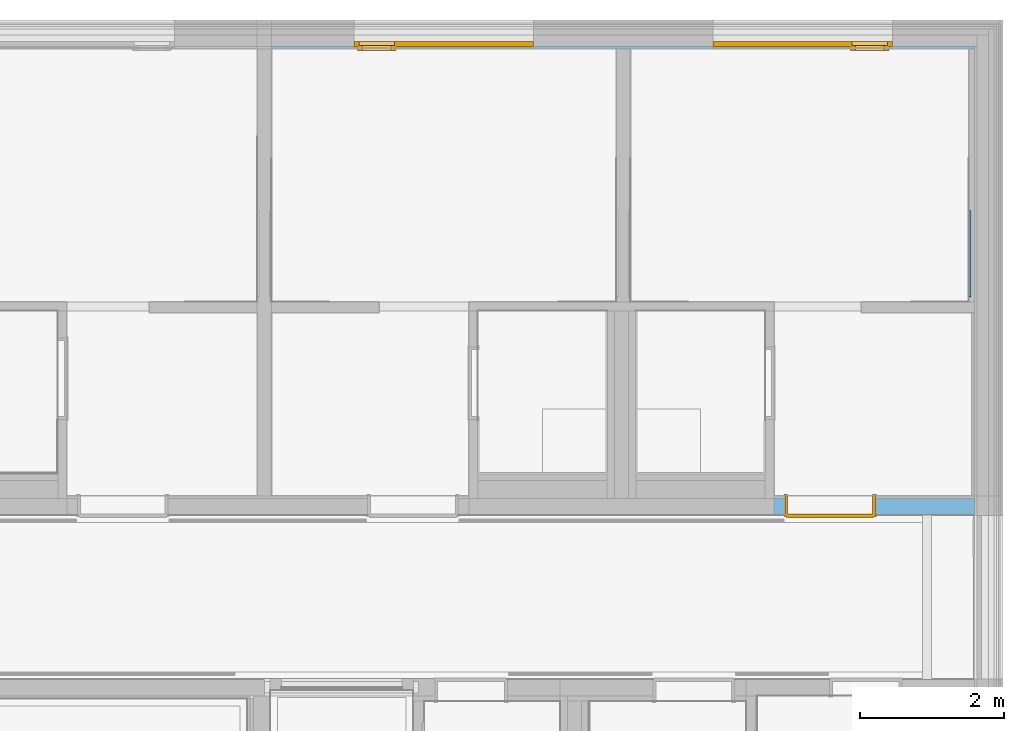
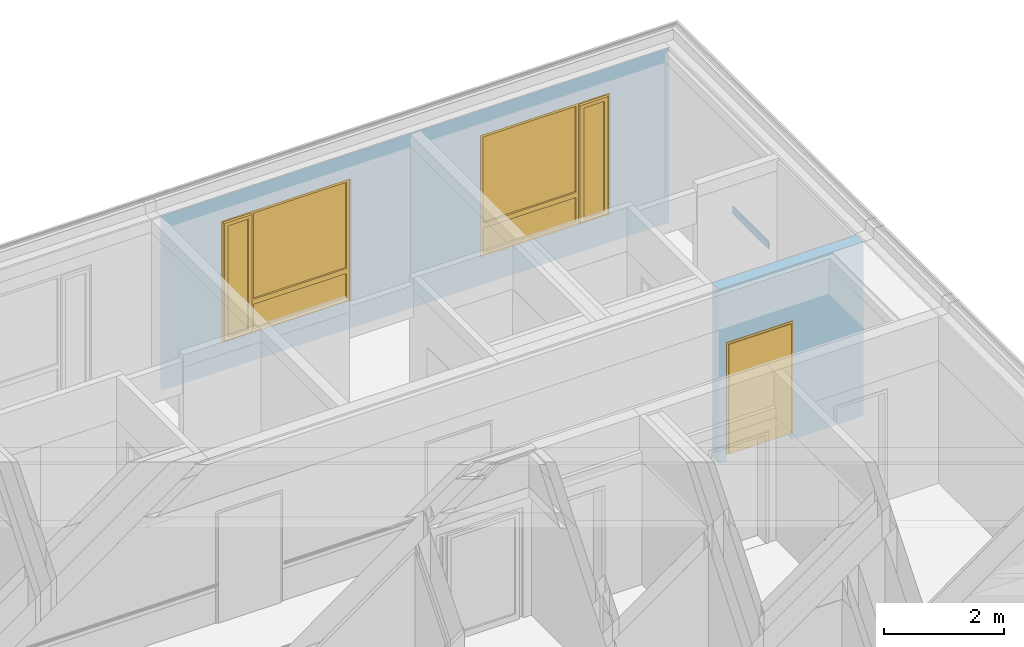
# One storey, part 146 of 222: 2 windows, 1 door, 1 wall, 3 openings, plus 2 elements that do not belong to this part.
"""IFC4 building model written with IfcOpenShell, lengths in metres."""

from ifc_helpers import new_model, entity, si_unit, converted_unit, derived_unit, frame, frame_2d, origin, origin_with_axes, place, context, subcontext, project, spatial, polyline, rectangle, outline, extrude, closed_shell, open_shell, faceted_brep, surface_model, source, transform, mapped, material, type_object, element, fill, save


model = new_model("IFC4")

# Units and contexts
model_context = context("Model", 3, precision=1e-05, world=origin())
body_context = subcontext(model_context, "Body", "Model", "MODEL_VIEW")
ifc_project = project(units=[si_unit("LENGTHUNIT", "METRE"), si_unit("AREAUNIT", "SQUARE_METRE"), si_unit("VOLUMEUNIT", "CUBIC_METRE"), si_unit("MASSUNIT", "GRAM", prefix="KILO"), converted_unit("PLANEANGLEUNIT", "DEGREE", entity("IfcPlaneAngleMeasure", 0.0174532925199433), si_unit("PLANEANGLEUNIT", "RADIAN"), dimensions=[0, 0, 0, 0, 0, 0, 0]), derived_unit("THERMALTRANSMITTANCEUNIT", [(si_unit("POWERUNIT", "WATT"), 1), (si_unit("THERMODYNAMICTEMPERATUREUNIT", "KELVIN"), -1), (si_unit("LENGTHUNIT", "METRE"), -2)]), derived_unit("VOLUMETRICFLOWRATEUNIT", [(si_unit("LENGTHUNIT", "METRE"), 3), (converted_unit("TIMEUNIT", "hour", entity("IfcTimeMeasure", 3600.0), si_unit("TIMEUNIT", "SECOND"), dimensions=[0, 0, 1, 0, 0, 0, 0]), -1), (si_unit("LENGTHUNIT", "METRE"), -1)])], contexts=[model_context])

# Site, building, storey
site_placement = place(None, origin())
site = spatial("IfcSite", under=ifc_project, at=site_placement, Name="Psychiatrie Neubau Wunstorf", CompositionType="ELEMENT")
building_placement = place(site_placement, origin())
building = spatial("IfcBuilding", under=site, at=building_placement, Name="Neubau H2 Stationsgebäude", CompositionType="ELEMENT")
storey_placement = place(building_placement, frame((0.0, 0.0, 3.6)))
storey = spatial("IfcBuildingStorey", under=building, at=storey_placement, Name="H2 Ebene +1", CompositionType="ELEMENT", Elevation=3.6)

# Wall, openings, windows
ifc_material_1 = material(Name="WA-LB")
wall_1_placement = place(storey_placement, frame((96.1, 31.614, 0.0)))
wall_1 = element("IfcWall", 1, at=wall_1_placement, inside=storey, material=ifc_material_1, context=body_context, shape_type="SweptSolid", body=[
    extrude(rectangle(XDim=9.789, YDim=0.036, at=frame_2d((4.8945, 0.018), x_axis=(1.0, 0.0))), origin_with_axes(), (0.0, 0.0, 1.0), 3.55),
])
opening_1_placement = place(wall_1_placement, frame((6.15, 0.0, 0.55), z_axis=(0.0, 1.0, 0.0), x_axis=(0.0, 0.0, 1.0)))
opening_1 = element("IfcOpeningElement", 2, at=opening_1_placement, cuts=wall_1, Name="Fensteröffnung", ObjectType="Opening", context=body_context, shape_type="SweptSolid", body=[
    extrude(outline(polyline([(2.5, 2.5), (2.5, 0.0), (0.0, 0.0), (0.0, 2.5), (2.5, 2.5)])), origin_with_axes(), (0.0, 0.0, 1.0), 0.036),
])
opening_2_placement = place(wall_1_placement, frame((1.15, 0.0, 0.55), z_axis=(0.0, 1.0, 0.0), x_axis=(0.0, 0.0, 1.0)))
opening_2 = element("IfcOpeningElement", 3, at=opening_2_placement, cuts=wall_1, Name="Fensteröffnung", ObjectType="Opening", context=body_context, shape_type="SweptSolid", body=[
    extrude(outline(polyline([(2.5, 2.5), (2.5, 0.0), (0.0, 0.0), (0.0, 2.5), (2.5, 2.5)])), origin_with_axes(), (0.0, 0.0, 1.0), 0.036),
])
shared_shape_1 = source(origin_with_axes(), body_context, "Body", "SurfaceModel", [
    surface_model("IfcShellBasedSurfaceModel", [(2.5, 0.0, 2.5), (2.5, 0.0, 0.0), (2.43, 0.0, 0.0), (2.43, 0.0, 2.5), (2.5, 0.0699999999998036, 0.0), (2.5, 0.0699999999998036, 2.5), (2.43, 0.0699999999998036, 2.5), (2.43, 0.0699999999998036, 0.0)], [closed_shell([[[0, 1, 2, 3]], [[4, 5, 6, 7]], [[1, 0, 5, 4]], [[2, 1, 4, 7]], [[3, 2, 7, 6]], [[0, 3, 6, 5]]], orient=[[False], [False], [False], [False], [False], [False]])]),
    surface_model("IfcShellBasedSurfaceModel", [(0.07, 0.0, 2.5), (0.07, 0.0, 0.0), (0.0, 0.0, 0.0), (0.0, 0.0, 2.5), (0.07, 0.0699999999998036, 0.0), (0.07, 0.0699999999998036, 2.5), (0.0, 0.0699999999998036, 2.5), (0.0, 0.0699999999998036, 0.0)], [closed_shell([[[0, 1, 2, 3]], [[4, 5, 6, 7]], [[1, 0, 5, 4]], [[2, 1, 4, 7]], [[3, 2, 7, 6]], [[0, 3, 6, 5]]], orient=[[False], [False], [False], [False], [False], [False]])]),
    surface_model("IfcShellBasedSurfaceModel", [(2.43, 0.0, 0.07), (2.43, 0.0, 0.0), (0.07, 0.0, 0.0), (0.07, 0.0, 0.07), (2.43, 0.0699999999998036, 0.0), (2.43, 0.0699999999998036, 0.07), (0.07, 0.0699999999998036, 0.07), (0.07, 0.0699999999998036, 0.0)], [closed_shell([[[0, 1, 2, 3]], [[4, 5, 6, 7]], [[1, 0, 5, 4]], [[2, 1, 4, 7]], [[3, 2, 7, 6]], [[0, 3, 6, 5]]], orient=[[False], [False], [False], [False], [False], [False]])]),
    surface_model("IfcShellBasedSurfaceModel", [(2.43, 0.0, 2.5), (2.43, 0.0, 2.43), (0.07, 0.0, 2.43), (0.07, 0.0, 2.5), (2.43, 0.0699999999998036, 2.43), (2.43, 0.0699999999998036, 2.5), (0.07, 0.0699999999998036, 2.5), (0.07, 0.0699999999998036, 2.43)], [closed_shell([[[0, 1, 2, 3]], [[4, 5, 6, 7]], [[1, 0, 5, 4]], [[2, 1, 4, 7]], [[3, 2, 7, 6]], [[0, 3, 6, 5]]], orient=[[False], [False], [False], [False], [False], [False]])]),
    surface_model("IfcShellBasedSurfaceModel", [(1.934285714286, 0.0, 2.43), (1.934285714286, 0.0, 0.07), (1.864285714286, 0.0, 0.07), (1.864285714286, 0.0, 2.43), (1.934285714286, 0.0699999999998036, 0.07), (1.934285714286, 0.0699999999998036, 2.43), (1.864285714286, 0.0699999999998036, 2.43), (1.864285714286, 0.0699999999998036, 0.07)], [closed_shell([[[0, 1, 2, 3]], [[4, 5, 6, 7]], [[1, 0, 5, 4]], [[2, 1, 4, 7]], [[3, 2, 7, 6]], [[0, 3, 6, 5]]], orient=[[False], [False], [False], [False], [False], [False]])]),
    surface_model("IfcShellBasedSurfaceModel", [(2.45, -0.05, 2.45), (2.45, -0.05, 0.05), (2.38, -0.05, 0.05), (2.38, -0.05, 2.45), (2.45, 0.0199999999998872, 0.05), (2.45, 0.0199999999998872, 2.45), (2.38, 0.0199999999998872, 2.45), (2.38, 0.0199999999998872, 0.05)], [closed_shell([[[0, 1, 2, 3]], [[4, 5, 6, 7]], [[1, 0, 5, 4]], [[2, 1, 4, 7]], [[3, 2, 7, 6]], [[0, 3, 6, 5]]], orient=[[False], [False], [False], [False], [False], [False]])]),
    surface_model("IfcShellBasedSurfaceModel", [(1.984285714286, -0.05, 2.45), (1.984285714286, -0.05, 0.05), (1.914285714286, -0.05, 0.05), (1.914285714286, -0.05, 2.45), (1.984285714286, 0.0199999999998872, 0.05), (1.984285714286, 0.0199999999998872, 2.45), (1.914285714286, 0.0199999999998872, 2.45), (1.914285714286, 0.0199999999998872, 0.05)], [closed_shell([[[0, 1, 2, 3]], [[4, 5, 6, 7]], [[1, 0, 5, 4]], [[2, 1, 4, 7]], [[3, 2, 7, 6]], [[0, 3, 6, 5]]], orient=[[False], [False], [False], [False], [False], [False]])]),
    surface_model("IfcShellBasedSurfaceModel", [(2.38, -0.05, 0.12), (2.38, -0.05, 0.05), (1.984285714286, -0.05, 0.05), (1.984285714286, -0.05, 0.12), (2.38, 0.0199999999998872, 0.05), (2.38, 0.0199999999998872, 0.12), (1.984285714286, 0.0199999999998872, 0.12), (1.984285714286, 0.0199999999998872, 0.05)], [closed_shell([[[0, 1, 2, 3]], [[4, 5, 6, 7]], [[1, 0, 5, 4]], [[2, 1, 4, 7]], [[3, 2, 7, 6]], [[0, 3, 6, 5]]], orient=[[False], [False], [False], [False], [False], [False]])]),
    surface_model("IfcShellBasedSurfaceModel", [(2.38, -0.05, 2.45), (2.38, -0.05, 2.38), (1.984285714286, -0.05, 2.38), (1.984285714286, -0.05, 2.45), (2.38, 0.0199999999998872, 2.38), (2.38, 0.0199999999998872, 2.45), (1.984285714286, 0.0199999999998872, 2.45), (1.984285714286, 0.0199999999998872, 2.38)], [closed_shell([[[0, 1, 2, 3]], [[4, 5, 6, 7]], [[1, 0, 5, 4]], [[2, 1, 4, 7]], [[3, 2, 7, 6]], [[0, 3, 6, 5]]], orient=[[False], [False], [False], [False], [False], [False]])]),
    surface_model("IfcShellBasedSurfaceModel", [(1.864285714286, 0.0, 0.67), (1.864285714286, 0.0, 0.57), (0.07, 0.0, 0.57), (0.07, 0.0, 0.67), (1.864285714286, 0.0699999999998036, 0.57), (1.864285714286, 0.0699999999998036, 0.67), (0.07, 0.0699999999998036, 0.67), (0.07, 0.0699999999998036, 0.57)], [closed_shell([[[0, 1, 2, 3]], [[4, 5, 6, 7]], [[1, 0, 5, 4]], [[2, 1, 4, 7]], [[3, 2, 7, 6]], [[0, 3, 6, 5]]], orient=[[False], [False], [False], [False], [False], [False]])]),
    surface_model("IfcShellBasedSurfaceModel", [(2.38, -0.0150000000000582, 0.12), (1.984285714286, -0.0150000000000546, 0.12), (1.984285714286, -0.0150000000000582, 2.38), (2.38, -0.0150000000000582, 2.38)], [open_shell([[[0, 1, 2, 3]]], orient=[[False]])]),
    surface_model("IfcShellBasedSurfaceModel", [(1.864285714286, 0.0349999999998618, 0.07), (0.07, 0.0349999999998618, 0.07), (0.07, 0.0349999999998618, 0.57), (1.864285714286, 0.0349999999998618, 0.57)], [open_shell([[[0, 1, 2, 3]]], orient=[[False]])]),
    surface_model("IfcShellBasedSurfaceModel", [(1.864285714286, 0.0349999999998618, 0.67), (0.07, 0.0349999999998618, 0.67), (0.07, 0.0349999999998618, 2.43), (1.864285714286, 0.0349999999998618, 2.43)], [open_shell([[[0, 1, 2, 3]]], orient=[[False]])]),
])
window_1_placement = place(opening_1_placement, frame((0.0, 0.0, 0.03), z_axis=(1.0, 0.0, 0.0), x_axis=(0.0, 1.0, 0.0)))
window_1 = element("IfcWindow", 4, at=window_1_placement, inside=storey, Name="Fenster", OverallHeight=2.5, OverallWidth=2.5, PartitioningType="USERDEFINED", PredefinedType="WINDOW", context=body_context, shape_type="MappedRepresentation", body=[
    mapped(shared_shape_1, transform((0.0, 0.0, 0.0), x_axis=(1.0, 0.0, 0.0), y_axis=(0.0, 1.0, 0.0), z_axis=(0.0, 0.0, 1.0), scale=1.0)),
])
fill(opening_1, window_1)
shared_shape_2 = source(origin_with_axes(), body_context, "Body", "SurfaceModel", [
    surface_model("IfcShellBasedSurfaceModel", [(0.0, 0.0, 2.5), (0.07, 0.0, 2.5), (0.07, 0.0, 0.0), (0.0, 0.0, 0.0), (0.0, 0.0699999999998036, 0.0), (0.07, 0.0699999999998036, 0.0), (0.07, 0.0699999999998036, 2.5), (0.0, 0.0699999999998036, 2.5)], [closed_shell([[[0, 1, 2, 3]], [[4, 5, 6, 7]], [[3, 4, 7, 0]], [[2, 5, 4, 3]], [[1, 6, 5, 2]], [[0, 7, 6, 1]]], orient=[[False], [False], [False], [False], [False], [False]])]),
    surface_model("IfcShellBasedSurfaceModel", [(2.43, 0.0, 2.5), (2.5, 0.0, 2.5), (2.5, 0.0, 0.0), (2.43, 0.0, 0.0), (2.43, 0.0699999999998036, 0.0), (2.5, 0.0699999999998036, 0.0), (2.5, 0.0699999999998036, 2.5), (2.43, 0.0699999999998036, 2.5)], [closed_shell([[[0, 1, 2, 3]], [[4, 5, 6, 7]], [[3, 4, 7, 0]], [[2, 5, 4, 3]], [[1, 6, 5, 2]], [[0, 7, 6, 1]]], orient=[[False], [False], [False], [False], [False], [False]])]),
    surface_model("IfcShellBasedSurfaceModel", [(0.07, 0.0, 0.07), (2.43, 0.0, 0.07), (2.43, 0.0, 0.0), (0.07, 0.0, 0.0), (0.07, 0.0699999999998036, 0.0), (2.43, 0.0699999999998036, 0.0), (2.43, 0.0699999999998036, 0.07), (0.07, 0.0699999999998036, 0.07)], [closed_shell([[[0, 1, 2, 3]], [[4, 5, 6, 7]], [[3, 4, 7, 0]], [[2, 5, 4, 3]], [[1, 6, 5, 2]], [[0, 7, 6, 1]]], orient=[[False], [False], [False], [False], [False], [False]])]),
    surface_model("IfcShellBasedSurfaceModel", [(0.07, 0.0, 2.5), (2.43, 0.0, 2.5), (2.43, 0.0, 2.43), (0.07, 0.0, 2.43), (0.07, 0.0699999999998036, 2.43), (2.43, 0.0699999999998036, 2.43), (2.43, 0.0699999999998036, 2.5), (0.07, 0.0699999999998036, 2.5)], [closed_shell([[[0, 1, 2, 3]], [[4, 5, 6, 7]], [[3, 4, 7, 0]], [[2, 5, 4, 3]], [[1, 6, 5, 2]], [[0, 7, 6, 1]]], orient=[[False], [False], [False], [False], [False], [False]])]),
    surface_model("IfcShellBasedSurfaceModel", [(0.565714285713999, 0.0, 2.43), (0.635714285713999, 0.0, 2.43), (0.635714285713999, 0.0, 0.07), (0.565714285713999, 0.0, 0.07), (0.565714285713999, 0.0699999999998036, 0.07), (0.635714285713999, 0.0699999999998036, 0.07), (0.635714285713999, 0.0699999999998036, 2.43), (0.565714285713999, 0.0699999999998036, 2.43)], [closed_shell([[[0, 1, 2, 3]], [[4, 5, 6, 7]], [[3, 4, 7, 0]], [[2, 5, 4, 3]], [[1, 6, 5, 2]], [[0, 7, 6, 1]]], orient=[[False], [False], [False], [False], [False], [False]])]),
    surface_model("IfcShellBasedSurfaceModel", [(0.05, -0.05, 2.45), (0.12, -0.05, 2.45), (0.12, -0.05, 0.05), (0.05, -0.05, 0.05), (0.05, 0.0199999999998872, 0.05), (0.12, 0.0199999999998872, 0.05), (0.12, 0.0199999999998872, 2.45), (0.05, 0.0199999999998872, 2.45)], [closed_shell([[[0, 1, 2, 3]], [[4, 5, 6, 7]], [[3, 4, 7, 0]], [[2, 5, 4, 3]], [[1, 6, 5, 2]], [[0, 7, 6, 1]]], orient=[[False], [False], [False], [False], [False], [False]])]),
    surface_model("IfcShellBasedSurfaceModel", [(0.515714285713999, -0.05, 2.45), (0.585714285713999, -0.05, 2.45), (0.585714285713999, -0.05, 0.05), (0.515714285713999, -0.05, 0.05), (0.515714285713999, 0.0199999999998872, 0.05), (0.585714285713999, 0.0199999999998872, 0.05), (0.585714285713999, 0.0199999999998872, 2.45), (0.515714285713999, 0.0199999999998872, 2.45)], [closed_shell([[[0, 1, 2, 3]], [[4, 5, 6, 7]], [[3, 4, 7, 0]], [[2, 5, 4, 3]], [[1, 6, 5, 2]], [[0, 7, 6, 1]]], orient=[[False], [False], [False], [False], [False], [False]])]),
    surface_model("IfcShellBasedSurfaceModel", [(0.12, -0.05, 0.12), (0.515714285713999, -0.05, 0.12), (0.515714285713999, -0.05, 0.05), (0.12, -0.05, 0.05), (0.12, 0.0199999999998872, 0.05), (0.515714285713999, 0.0199999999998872, 0.05), (0.515714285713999, 0.0199999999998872, 0.12), (0.12, 0.0199999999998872, 0.12)], [closed_shell([[[0, 1, 2, 3]], [[4, 5, 6, 7]], [[3, 4, 7, 0]], [[2, 5, 4, 3]], [[1, 6, 5, 2]], [[0, 7, 6, 1]]], orient=[[False], [False], [False], [False], [False], [False]])]),
    surface_model("IfcShellBasedSurfaceModel", [(0.12, -0.05, 2.45), (0.515714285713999, -0.05, 2.45), (0.515714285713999, -0.05, 2.38), (0.12, -0.05, 2.38), (0.12, 0.0199999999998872, 2.38), (0.515714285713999, 0.0199999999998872, 2.38), (0.515714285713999, 0.0199999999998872, 2.45), (0.12, 0.0199999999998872, 2.45)], [closed_shell([[[0, 1, 2, 3]], [[4, 5, 6, 7]], [[3, 4, 7, 0]], [[2, 5, 4, 3]], [[1, 6, 5, 2]], [[0, 7, 6, 1]]], orient=[[False], [False], [False], [False], [False], [False]])]),
    surface_model("IfcShellBasedSurfaceModel", [(0.635714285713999, 0.0, 0.67), (2.43, 0.0, 0.67), (2.43, 0.0, 0.57), (0.635714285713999, 0.0, 0.57), (0.635714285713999, 0.0699999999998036, 0.57), (2.43, 0.0699999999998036, 0.57), (2.43, 0.0699999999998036, 0.67), (0.635714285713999, 0.0699999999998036, 0.67)], [closed_shell([[[0, 1, 2, 3]], [[4, 5, 6, 7]], [[3, 4, 7, 0]], [[2, 5, 4, 3]], [[1, 6, 5, 2]], [[0, 7, 6, 1]]], orient=[[False], [False], [False], [False], [False], [False]])]),
    surface_model("IfcShellBasedSurfaceModel", [(0.12, -0.0150000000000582, 0.12), (0.12, -0.0150000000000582, 2.38), (0.515714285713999, -0.0150000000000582, 2.38), (0.515714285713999, -0.0150000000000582, 0.12)], [open_shell([[[0, 1, 2, 3]]], orient=[[False]])]),
    surface_model("IfcShellBasedSurfaceModel", [(0.635714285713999, 0.0349999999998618, 0.07), (0.635714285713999, 0.0349999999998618, 0.57), (2.43, 0.0349999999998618, 0.57), (2.43, 0.0349999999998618, 0.07)], [open_shell([[[0, 1, 2, 3]]], orient=[[False]])]),
    surface_model("IfcShellBasedSurfaceModel", [(0.635714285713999, 0.0349999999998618, 0.67), (0.635714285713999, 0.0349999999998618, 2.43), (2.43, 0.0349999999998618, 2.43), (2.43, 0.0349999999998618, 0.67)], [open_shell([[[0, 1, 2, 3]]], orient=[[False]])]),
])
window_2_placement = place(opening_2_placement, frame((0.0, 0.0, 0.03), z_axis=(1.0, 0.0, 0.0), x_axis=(0.0, 1.0, 0.0)))
window_2 = element("IfcWindow", 5, at=window_2_placement, inside=storey, Name="Fenster", OverallHeight=2.5, OverallWidth=2.5, PartitioningType="USERDEFINED", PredefinedType="WINDOW", context=body_context, shape_type="MappedRepresentation", body=[
    mapped(shared_shape_2, transform((0.0, 0.0, 0.0), x_axis=(1.0, 0.0, 0.0), y_axis=(0.0, 1.0, 0.0), z_axis=(0.0, 0.0, 1.0), scale=1.0)),
])
fill(opening_2, window_2)

# Wall, opening, door
ifc_material_2 = material(Name="WI-HW 60")
wall_2_placement = place(storey_placement, frame((103.1, 25.1175, 0.0)))
wall_2 = element("IfcWall", 6, at=wall_2_placement, inside=storey, material=ifc_material_2, context=body_context, shape_type="SweptSolid", body=[
    extrude(rectangle(XDim=2.789, YDim=0.232, at=frame_2d((1.3945, 0.116), x_axis=(1.0, 0.0))), origin_with_axes(), (0.0, 0.0, 1.0), 3.55),
])
opening_3_placement = place(wall_2_placement, frame((0.15, 0.0, 0.0), z_axis=(0.0, 1.0, 0.0), x_axis=(0.0, 0.0, 1.0)))
opening_3 = element("IfcOpeningElement", 7, at=opening_3_placement, cuts=wall_2, Name="Türöffnung", ObjectType="Opening", context=body_context, shape_type="SweptSolid", body=[
    extrude(outline(polyline([(2.41, 1.26), (2.41, 0.0), (0.0, 0.0), (0.0, 1.26), (2.41, 1.26)])), origin_with_axes(), (0.0, 0.0, 1.0), 0.232),
])
ifc_material_3 = material(Name="TI-2F-UZ-D")
door_type = type_object("IfcDoorType", Name="SMT", OperationType="DOUBLE_DOOR_SINGLE_SWING", ParameterTakesPrecedence=False, PredefinedType="DOOR")
shared_shape_3 = source(origin_with_axes(), body_context, "Body", "Brep", [
    faceted_brep([(0.0, -0.0150000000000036, 2.41), (0.04, -0.0150000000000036, 2.41), (0.04, -0.0150000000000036, 0.15), (0.0, -0.0150000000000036, 0.15), (0.0, 0.286999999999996, 0.15), (0.04, 0.286999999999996, 0.15), (0.04, 0.286999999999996, 2.41), (0.0, 0.286999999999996, 2.41)], [[[0, 1, 2, 3]], [[4, 5, 6, 7]], [[3, 4, 7, 0]], [[2, 5, 4, 3]], [[1, 6, 5, 2]], [[0, 7, 6, 1]]], orient=[[False], [False], [False], [False], [False], [False]]),
    faceted_brep([(0.0, -0.0150000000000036, 2.425), (0.0, -0.0150000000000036, 0.15), (-0.015, -0.0150000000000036, 0.15), (-0.015, -0.0150000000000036, 2.425), (0.0, 0.0, 0.15), (0.0, 0.0, 2.425), (-0.015, 0.0, 2.425), (-0.015, 0.0, 0.15)], [[[0, 1, 2, 3]], [[4, 5, 6, 7]], [[1, 0, 5, 4]], [[2, 1, 4, 7]], [[3, 2, 7, 6]], [[0, 3, 6, 5]]], orient=[[False], [False], [False], [False], [False], [False]]),
    faceted_brep([(0.0, 0.271999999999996, 2.425), (0.0, 0.271999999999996, 0.15), (-0.015, 0.271999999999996, 0.15), (-0.015, 0.271999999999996, 2.425), (0.0, 0.286999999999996, 0.15), (0.0, 0.286999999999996, 2.425), (-0.015, 0.286999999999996, 2.425), (-0.015, 0.286999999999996, 0.15)], [[[0, 1, 2, 3]], [[4, 5, 6, 7]], [[1, 0, 5, 4]], [[2, 1, 4, 7]], [[3, 2, 7, 6]], [[0, 3, 6, 5]]], orient=[[False], [False], [False], [False], [False], [False]]),
    faceted_brep([(1.22, -0.0150000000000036, 2.41), (1.26, -0.0150000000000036, 2.41), (1.26, -0.0150000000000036, 0.15), (1.22, -0.0150000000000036, 0.15), (1.22, 0.286999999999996, 0.15), (1.26, 0.286999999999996, 0.15), (1.26, 0.286999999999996, 2.41), (1.22, 0.286999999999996, 2.41)], [[[0, 1, 2, 3]], [[4, 5, 6, 7]], [[3, 4, 7, 0]], [[2, 5, 4, 3]], [[1, 6, 5, 2]], [[0, 7, 6, 1]]], orient=[[False], [False], [False], [False], [False], [False]]),
    faceted_brep([(1.26, -0.0150000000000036, 2.425), (1.275, -0.0150000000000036, 2.425), (1.275, -0.0150000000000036, 0.15), (1.26, -0.0150000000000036, 0.15), (1.26, 0.0, 0.15), (1.275, 0.0, 0.15), (1.275, 0.0, 2.425), (1.26, 0.0, 2.425)], [[[0, 1, 2, 3]], [[4, 5, 6, 7]], [[3, 4, 7, 0]], [[2, 5, 4, 3]], [[1, 6, 5, 2]], [[0, 7, 6, 1]]], orient=[[False], [False], [False], [False], [False], [False]]),
    faceted_brep([(1.26, 0.271999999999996, 2.425), (1.275, 0.271999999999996, 2.425), (1.275, 0.271999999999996, 0.15), (1.26, 0.271999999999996, 0.15), (1.26, 0.286999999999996, 0.15), (1.275, 0.286999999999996, 0.15), (1.275, 0.286999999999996, 2.425), (1.26, 0.286999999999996, 2.425)], [[[0, 1, 2, 3]], [[4, 5, 6, 7]], [[3, 4, 7, 0]], [[2, 5, 4, 3]], [[1, 6, 5, 2]], [[0, 7, 6, 1]]], orient=[[False], [False], [False], [False], [False], [False]]),
    faceted_brep([(0.04, -0.0150000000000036, 2.41), (1.22, -0.0150000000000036, 2.41), (1.22, -0.0150000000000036, 2.37), (0.04, -0.0150000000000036, 2.37), (0.04, 0.286999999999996, 2.37), (1.22, 0.286999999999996, 2.37), (1.22, 0.286999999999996, 2.41), (0.04, 0.286999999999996, 2.41)], [[[0, 1, 2, 3]], [[4, 5, 6, 7]], [[3, 4, 7, 0]], [[2, 5, 4, 3]], [[1, 6, 5, 2]], [[0, 7, 6, 1]]], orient=[[False], [False], [False], [False], [False], [False]]),
    faceted_brep([(0.0, -0.0150000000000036, 2.425), (1.26, -0.0150000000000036, 2.425), (1.26, -0.0150000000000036, 2.41), (0.0, -0.0150000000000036, 2.41), (0.0, 0.0, 2.41), (1.26, 0.0, 2.41), (1.26, 0.0, 2.425), (0.0, 0.0, 2.425)], [[[0, 1, 2, 3]], [[4, 5, 6, 7]], [[3, 4, 7, 0]], [[2, 5, 4, 3]], [[1, 6, 5, 2]], [[0, 7, 6, 1]]], orient=[[False], [False], [False], [False], [False], [False]]),
    faceted_brep([(0.0, 0.271999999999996, 2.425), (1.26, 0.271999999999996, 2.425), (1.26, 0.271999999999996, 2.41), (0.0, 0.271999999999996, 2.41), (0.0, 0.286999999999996, 2.41), (1.26, 0.286999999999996, 2.41), (1.26, 0.286999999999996, 2.425), (0.0, 0.286999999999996, 2.425)], [[[0, 1, 2, 3]], [[4, 5, 6, 7]], [[3, 4, 7, 0]], [[2, 5, 4, 3]], [[1, 6, 5, 2]], [[0, 7, 6, 1]]], orient=[[False], [False], [False], [False], [False], [False]]),
    faceted_brep([(0.025, 0.251999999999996, 2.385), (0.925, 0.251999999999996, 2.385), (0.925, 0.251999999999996, 0.15), (0.025, 0.251999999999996, 0.15), (0.025, 0.301999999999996, 0.15), (0.925, 0.301999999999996, 0.15), (0.925, 0.301999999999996, 2.385), (0.025, 0.301999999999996, 2.385)], [[[0, 1, 2, 3]], [[4, 5, 6, 7]], [[3, 4, 7, 0]], [[2, 5, 4, 3]], [[1, 6, 5, 2]], [[0, 7, 6, 1]]], orient=[[False], [False], [False], [False], [False], [False]]),
    faceted_brep([(0.926, 0.251999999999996, 2.385), (1.235, 0.251999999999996, 2.385), (1.235, 0.251999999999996, 0.15), (0.926, 0.251999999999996, 0.15), (0.926, 0.301999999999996, 0.15), (1.235, 0.301999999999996, 0.15), (1.235, 0.301999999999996, 2.385), (0.926, 0.301999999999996, 2.385)], [[[0, 1, 2, 3]], [[4, 5, 6, 7]], [[3, 4, 7, 0]], [[2, 5, 4, 3]], [[1, 6, 5, 2]], [[0, 7, 6, 1]]], orient=[[False], [False], [False], [False], [False], [False]]),
])
door_placement = place(opening_3_placement, frame((0.0, 1.26, 0.271999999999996), z_axis=(1.0, 0.0, 0.0), x_axis=(0.0, -1.0, 0.0)))
door = element("IfcDoor", 8, at=door_placement, inside=storey, type_object=door_type, material=ifc_material_3, Name="SMT", OverallHeight=2.41, OverallWidth=1.26, context=body_context, shape_type="MappedRepresentation", body=[
    mapped(shared_shape_3, transform((0.0, 0.0, 0.0), x_axis=(1.0, 0.0, 0.0), y_axis=(0.0, 1.0, 0.0), z_axis=(0.0, 0.0, 1.0), scale=1.0)),
])
fill(opening_3, door)

# Wall
wall_3_placement = place(storey_placement, frame((105.814, 28.1628, 1.575)))
element("IfcWall", 9, at=wall_3_placement, inside=storey, Name="WV 1.1", context=body_context, shape_type="Brep", body=[
    faceted_brep([(0.025, 1.2, 0.0), (0.0, 1.2, 0.0), (0.0, 0.0, 0.0), (0.025, 0.0, 0.0), (0.0, 1.2, 0.15), (0.025, 1.2, 0.15), (0.025, 0.0, 0.15), (0.0, 0.0, 0.15)], [[[0, 1, 2, 3]], [[4, 5, 6, 7]], [[1, 0, 5, 4]], [[2, 1, 4, 7]], [[3, 2, 7, 6]], [[0, 3, 6, 5]]], orient=[[False], [False], [False], [False], [False], [False]]),
])

save(model, "model.ifc")
